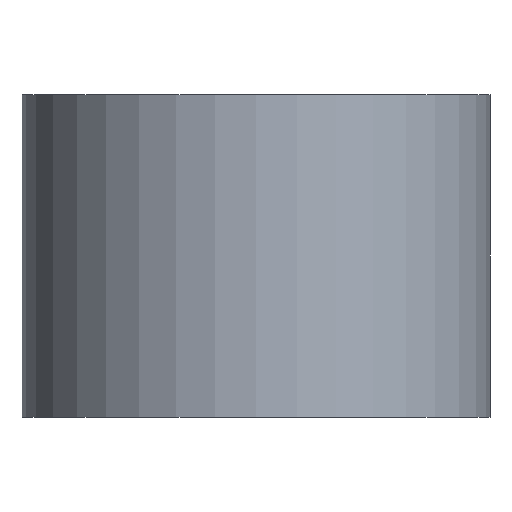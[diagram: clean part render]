
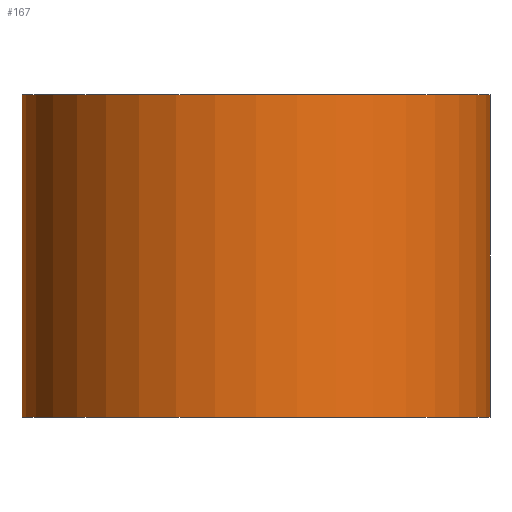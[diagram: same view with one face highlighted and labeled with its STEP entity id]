
A CAD part, left-side view. The second image highlights one B-rep face of the part: STEP entity #167.
In plain terms, the highlighted cylindrical face has radius 4.5 mm (diameter 9 mm), a partial arc.
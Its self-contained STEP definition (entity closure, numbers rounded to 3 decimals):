
#29=FACE_OUTER_BOUND('',#38,.T.);
#38=EDGE_LOOP('',(#132,#133,#134,#135));
#55=LINE('',#292,#66);
#56=LINE('',#298,#67);
#66=VECTOR('',#242,10.);
#67=VECTOR('',#249,10.);
#77=CIRCLE('',#206,4.5);
#78=CIRCLE('',#207,4.5);
#87=VERTEX_POINT('',#285);
#90=VERTEX_POINT('',#290);
#91=VERTEX_POINT('',#294);
#92=VERTEX_POINT('',#296);
#107=EDGE_CURVE('',#87,#90,#55,.T.);
#108=EDGE_CURVE('',#91,#87,#77,.T.);
#109=EDGE_CURVE('',#92,#90,#78,.T.);
#110=EDGE_CURVE('',#91,#92,#56,.T.);
#132=ORIENTED_EDGE('',*,*,#108,.T.);
#133=ORIENTED_EDGE('',*,*,#107,.T.);
#134=ORIENTED_EDGE('',*,*,#109,.F.);
#135=ORIENTED_EDGE('',*,*,#110,.F.);
#161=CYLINDRICAL_SURFACE('',#205,4.5);
#167=ADVANCED_FACE('',(#29),#161,.T.);
#205=AXIS2_PLACEMENT_3D('',#293,#243,#244);
#206=AXIS2_PLACEMENT_3D('',#295,#245,#246);
#207=AXIS2_PLACEMENT_3D('',#297,#247,#248);
#242=DIRECTION('',(0.,0.,1.));
#243=DIRECTION('center_axis',(0.,0.,1.));
#244=DIRECTION('ref_axis',(0.,1.,0.));
#245=DIRECTION('center_axis',(0.,0.,1.));
#246=DIRECTION('ref_axis',(0.,1.,0.));
#247=DIRECTION('center_axis',(0.,0.,1.));
#248=DIRECTION('ref_axis',(0.,1.,0.));
#249=DIRECTION('',(0.,0.,1.));
#285=CARTESIAN_POINT('',(-4.5,-4.5,0.));
#290=CARTESIAN_POINT('',(-4.5,-4.5,6.2));
#292=CARTESIAN_POINT('',(-4.5,-4.5,0.));
#293=CARTESIAN_POINT('Origin',(-4.5,0.,0.));
#294=CARTESIAN_POINT('',(-4.5,4.5,0.));
#295=CARTESIAN_POINT('Origin',(-4.5,0.,0.));
#296=CARTESIAN_POINT('',(-4.5,4.5,6.2));
#297=CARTESIAN_POINT('Origin',(-4.5,0.,6.2));
#298=CARTESIAN_POINT('',(-4.5,4.5,0.));
